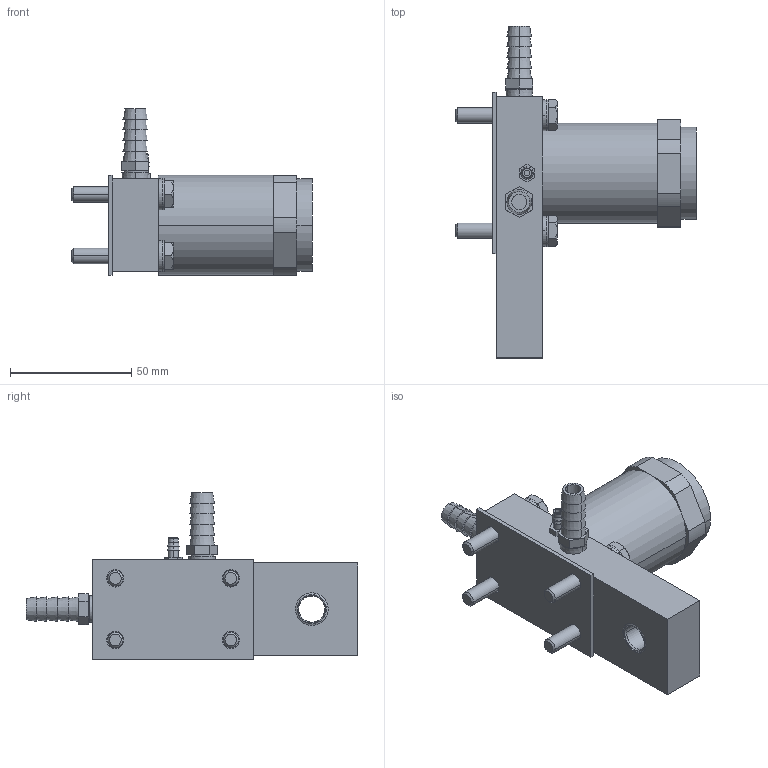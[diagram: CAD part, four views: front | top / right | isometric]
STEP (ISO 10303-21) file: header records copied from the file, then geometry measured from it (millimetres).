
FILE_DESCRIPTION((''),'2;1');
FILE_NAME('UJ4_ASM','2017-08-24T',('jennifer.elliott'),('CenterLine (Windsor) Ltd - Automation Components Division'),'PRO/ENGINEER BY PARAMETRIC TECHNOLOGY CORPORATION, 2015030','PRO/ENGINEER BY PARAMETRIC TECHNOLOGY CORPORATION, 2015030','');
FILE_SCHEMA(('AUTOMOTIVE_DESIGN { 1 0 10303 214 1 1 1 1 }'));
Length unit declared in the file: inch
Products named in the file (22): PRT0359; PRT0360; PRT0361; PRT0362; PRT0363; PRT0364; PRT0365; PRT0366; PRT0367; PRT0368; PRT0369; PRT0370; PRT0371; PRT0372; PRT0373; PRT0374; PRT0375; PRT0376; PRT0377; PRT0378; PRT0379; UJ4_ASM
Assembly tree (21 placements, depth 2):
  UJ4_ASM
    PRT0359
    PRT0360
    PRT0361
    PRT0362
    PRT0363
    PRT0364
    PRT0365
    PRT0366
    PRT0367
    PRT0368
    PRT0369
    PRT0370
    PRT0371
    PRT0372
    PRT0373
    PRT0374
    PRT0375
    PRT0376
    PRT0377
    PRT0378
    PRT0379
Bounding box: 99.25 x 136.91 x 68.64 mm (x, y, z)
Volume: 171709 mm3; surface area: 51754.2 mm2
Topology: 21 solids, 21 shells, 289 faces, 636 edges, 414 vertices
Faces by surface type: plane 123, cylinder 94, cone 68, torus 4
Entity records: 9688 total; most frequent: CARTESIAN_POINT 1698, DIRECTION 1558, ORIENTED_EDGE 1272, AXIS2_PLACEMENT_3D 638, EDGE_CURVE 636, VERTEX_POINT 414, EDGE_LOOP 356, CIRCLE 306
